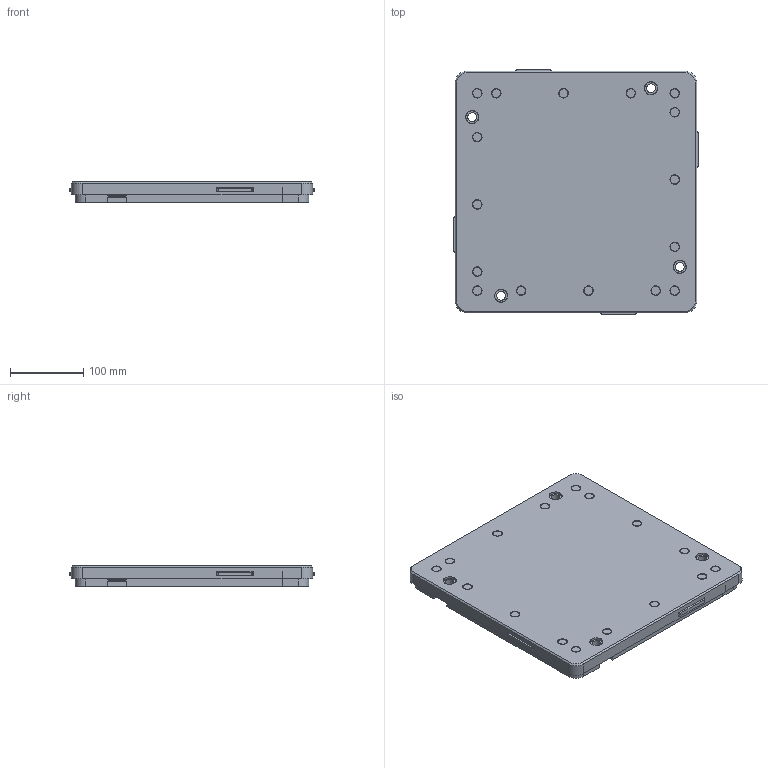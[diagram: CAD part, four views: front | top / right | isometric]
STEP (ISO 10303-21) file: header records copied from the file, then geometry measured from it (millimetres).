
FILE_DESCRIPTION(/* description */ (''),/* implementation_level */ '2;1');
FILE_NAME(/* name */ 'C:\Marketing\01_Versamove-SPU_STEP-Dateien-Homepage\VersamoveStandard\B320\Step-Dateien\Werkstückträger_WT4045_320x320.stp',/* time_stamp */ '2016-12-19T14:53:24+01:00',/* author */ ('herbert.engels'),/* organization */ (''),/* preprocessor_version */ 'ST-DEVELOPER v15.6',/* originating_system */ 'Autodesk Inventor 2015',/* authorisation */ '');
FILE_SCHEMA (('CONFIG_CONTROL_DESIGN'));
Length unit declared in the file: millimetre
Products named in the file (1): Werkstückträger_WT4045_320x320
Bounding box: 334 x 334 x 28 mm (x, y, z)
Volume: 1646977.6 mm3; surface area: 348191.1 mm2
Topology: 1 solids, 1 shells, 394 faces, 988 edges, 644 vertices
Faces by surface type: plane 234, cylinder 116, cone 40, torus 4
Full cylindrical faces by diameter (mm): 4.5 x4, 6 x16, 8 x16, 9 x4, 12 x20, 18 x4, 22 x4, 23 x4, 27 x4, 28 x4
Entity records: 11445 total; most frequent: DIRECTION 1890, CARTESIAN_POINT 1811, ORIENTED_EDGE 1640, EDGE_CURVE 820, AXIS2_PLACEMENT_3D 675, VERTEX_POINT 596, EDGE_LOOP 578, LINE 540
